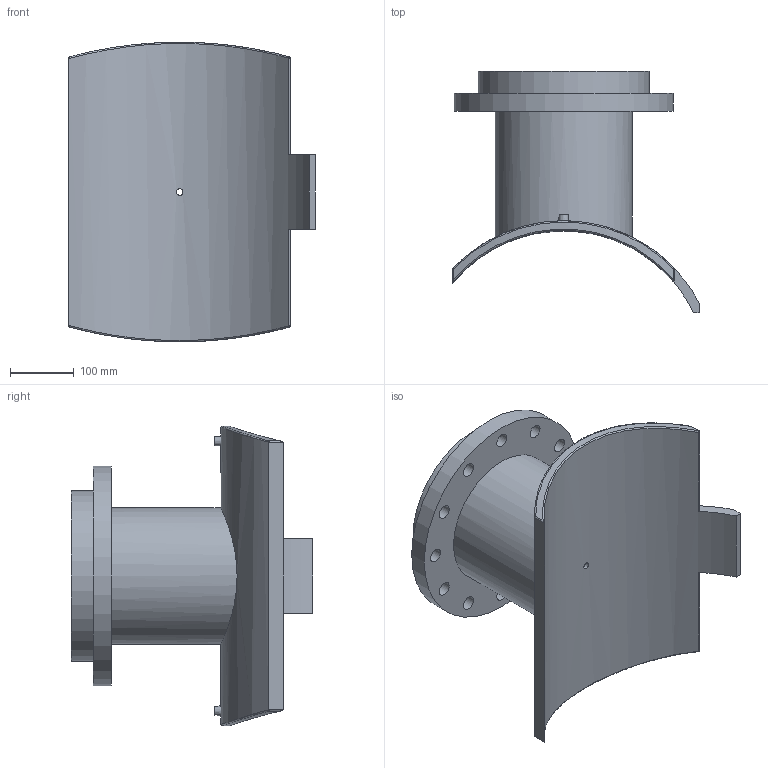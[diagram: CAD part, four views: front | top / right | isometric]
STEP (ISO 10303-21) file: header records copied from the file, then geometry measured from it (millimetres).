
FILE_DESCRIPTION(/* description */ ('PLASSON FLANGED BRANCH SADDLE 450X200'),/* implementation_level */ '2;1');
FILE_NAME(/* name */ 'C:\Dropbox\KIMPROJECTS-Inventor 2019\99-16-3568-Processing\ElectroFusion Fittings\495904_495903\stp\495903450200T.stp',/* time_stamp */ '2024-04-03T21:00:50+02:00',/* author */ ('KIM'),/* organization */ (''),/* preprocessor_version */ 'ST-DEVELOPER v17.2',/* originating_system */ 'Autodesk Inventor 2019',/* authorisation */ '');
FILE_SCHEMA (('AUTOMOTIVE_DESIGN { 1 0 10303 214 3 1 1 }'));
Length unit declared in the file: millimetre
Products named in the file (1): 495903450200T
Bounding box: 387 x 379.12 x 469.99 mm (x, y, z)
Volume: 8711359.7 mm3; surface area: 853091.7 mm2
Topology: 1 solids, 1 shells, 62 faces, 163 edges, 126 vertices
Faces by surface type: cylinder 35, plane 17, sphere 4, bspline 4, cone 2
Full cylindrical faces by diameter (mm): 4 x2, 10 x2, 10.4 x1, 16 x1, 22 x12, 163 x1, 214.4 x1, 268 x1, 344 x1
Entity records: 2597 total; most frequent: CARTESIAN_POINT 969, DIRECTION 325, ORIENTED_EDGE 298, EDGE_CURVE 149, AXIS2_PLACEMENT_3D 137, VERTEX_POINT 100, EDGE_LOOP 99, CIRCLE 78
